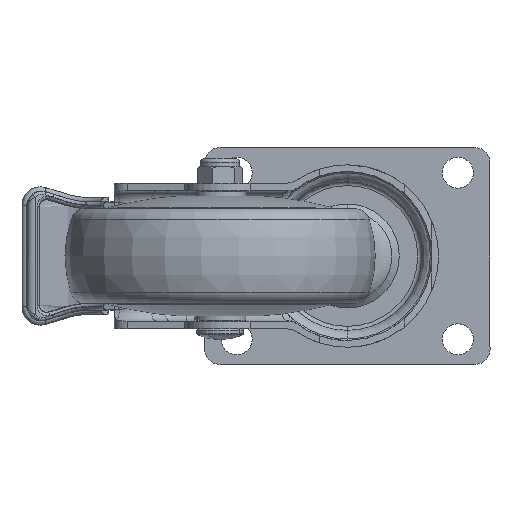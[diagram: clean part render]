
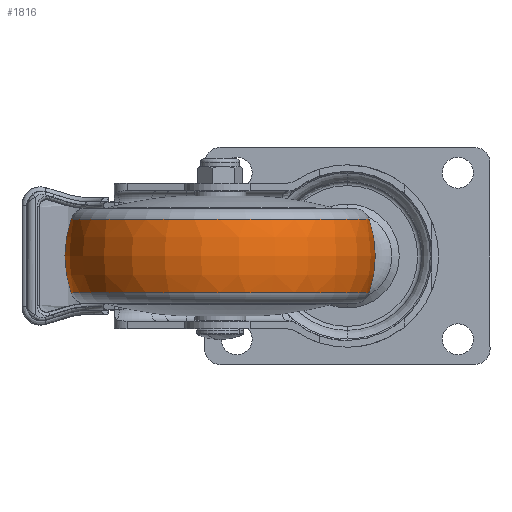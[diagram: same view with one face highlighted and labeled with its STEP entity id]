
A CAD part, front view. The second image highlights one B-rep face of the part: STEP entity #1816.
In plain terms, the highlighted toroidal (fillet/blend) face has major radius 13.113 mm and minor radius 36.887 mm.
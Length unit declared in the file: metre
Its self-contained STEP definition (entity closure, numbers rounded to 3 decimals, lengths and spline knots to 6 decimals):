
#551 = CARTESIAN_POINT ( 'NONE',  ( -0.089042, -0.087567, -0.011857 ) ) ;
#703 = CARTESIAN_POINT ( 'NONE',  ( -0.089042, -0.087567, 0.011857 ) ) ;
#1816 = ADVANCED_FACE ( 'NONE', ( #13428 ), #4276, .T. ) ;
#2927 = EDGE_CURVE ( 'NONE', #20886, #7042, #25585, .T. ) ;
#3163 = DIRECTION ( 'NONE',  ( 0., 0., 1. ) ) ;
#3514 = CIRCLE ( 'NONE', #18031, 0.036887 ) ;
#3526 = EDGE_CURVE ( 'NONE', #7042, #15030, #11211, .T. ) ;
#3811 = DIRECTION ( 'NONE',  ( 0., 0., 1. ) ) ;
#4276 = TOROIDAL_SURFACE ( 'NONE', #12580, 0.013113, 0.036887 ) ;
#5464 = ORIENTED_EDGE ( 'NONE', *, *, #10772, .T. ) ;
#5849 = CARTESIAN_POINT ( 'NONE',  ( -0.054113, -0.087567, 0. ) ) ;
#6016 = CARTESIAN_POINT ( 'NONE',  ( -0.041, -0.087567, 0.011857 ) ) ;
#7042 = VERTEX_POINT ( 'NONE', #703 ) ;
#7437 = DIRECTION ( 'NONE',  ( 0., 0., 1. ) ) ;
#9542 = DIRECTION ( 'NONE',  ( 1., 0., 0. ) ) ;
#9830 = CARTESIAN_POINT ( 'NONE',  ( 0.007042, -0.087567, -0.011857 ) ) ;
#10219 = AXIS2_PLACEMENT_3D ( 'NONE', #5849, #17556, #13785 ) ;
#10772 = EDGE_CURVE ( 'NONE', #12240, #15030, #3514, .T. ) ;
#11099 = DIRECTION ( 'NONE',  ( 1., 0., 0. ) ) ;
#11211 = CIRCLE ( 'NONE', #14522, 0.048042 ) ;
#11567 = EDGE_LOOP ( 'NONE', ( #14045, #25258, #5464, #22659 ) ) ;
#11927 = DIRECTION ( 'NONE',  ( 0., -1., 0. ) ) ;
#12240 = VERTEX_POINT ( 'NONE', #9830 ) ;
#12580 = AXIS2_PLACEMENT_3D ( 'NONE', #13044, #3163, #11099 ) ;
#13044 = CARTESIAN_POINT ( 'NONE',  ( -0.041, -0.087567, 0. ) ) ;
#13428 = FACE_OUTER_BOUND ( 'NONE', #11567, .T. ) ;
#13785 = DIRECTION ( 'NONE',  ( -1., 0., 0. ) ) ;
#14045 = ORIENTED_EDGE ( 'NONE', *, *, #2927, .F. ) ;
#14258 = DIRECTION ( 'NONE',  ( 0., 0., -1. ) ) ;
#14522 = AXIS2_PLACEMENT_3D ( 'NONE', #6016, #3811, #9542 ) ;
#15030 = VERTEX_POINT ( 'NONE', #20338 ) ;
#17238 = CIRCLE ( 'NONE', #20539, 0.048042 ) ;
#17556 = DIRECTION ( 'NONE',  ( 0., 1., 0. ) ) ;
#18031 = AXIS2_PLACEMENT_3D ( 'NONE', #25700, #11927, #14258 ) ;
#20263 = EDGE_CURVE ( 'NONE', #20886, #12240, #17238, .T. ) ;
#20338 = CARTESIAN_POINT ( 'NONE',  ( 0.007042, -0.087567, 0.011857 ) ) ;
#20539 = AXIS2_PLACEMENT_3D ( 'NONE', #23280, #7437, #21324 ) ;
#20886 = VERTEX_POINT ( 'NONE', #551 ) ;
#21324 = DIRECTION ( 'NONE',  ( 1., 0., 0. ) ) ;
#22659 = ORIENTED_EDGE ( 'NONE', *, *, #3526, .F. ) ;
#23280 = CARTESIAN_POINT ( 'NONE',  ( -0.041, -0.087567, -0.011857 ) ) ;
#25258 = ORIENTED_EDGE ( 'NONE', *, *, #20263, .T. ) ;
#25585 = CIRCLE ( 'NONE', #10219, 0.036887 ) ;
#25700 = CARTESIAN_POINT ( 'NONE',  ( -0.027887, -0.087567, 0. ) ) ;
